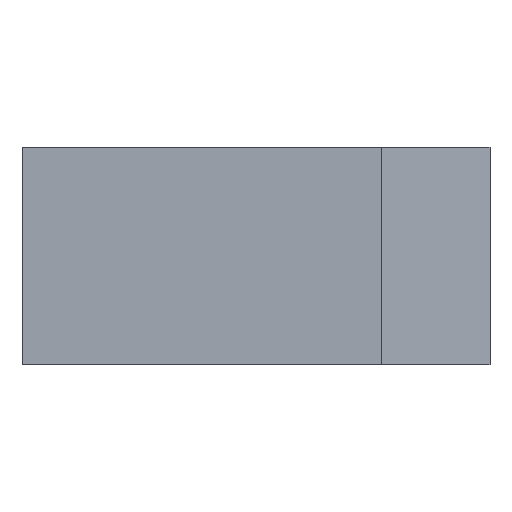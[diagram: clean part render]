
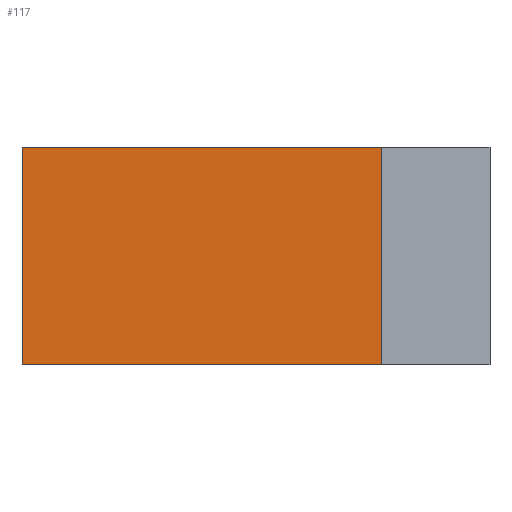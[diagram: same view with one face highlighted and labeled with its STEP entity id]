
A CAD part, left-side view. The second image highlights one B-rep face of the part: STEP entity #117.
In plain terms, the highlighted planar face has unit normal (-1, 0, 0).
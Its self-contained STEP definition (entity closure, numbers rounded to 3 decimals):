
#39 = VERTEX_POINT ( 'NONE', #378 ) ;
#40 = ORIENTED_EDGE ( 'NONE', *, *, #41, .F. ) ;
#41 = EDGE_CURVE ( 'NONE', #161, #39, #377, .T. ) ;
#42 = ORIENTED_EDGE ( 'NONE', *, *, #160, .T. ) ;
#117 = ADVANCED_FACE ( 'NONE', ( #275 ), #274, .F. ) ;
#118 = EDGE_LOOP ( 'NONE', ( #119, #122, #40, #42 ) ) ;
#119 = ORIENTED_EDGE ( 'NONE', *, *, #120, .T. ) ;
#120 = EDGE_CURVE ( 'NONE', #158, #121, #269, .T. ) ;
#121 = VERTEX_POINT ( 'NONE', #457 ) ;
#122 = ORIENTED_EDGE ( 'NONE', *, *, #123, .T. ) ;
#123 = EDGE_CURVE ( 'NONE', #121, #39, #419, .T. ) ;
#158 = VERTEX_POINT ( 'NONE', #533 ) ;
#160 = EDGE_CURVE ( 'NONE', #161, #158, #532, .T. ) ;
#161 = VERTEX_POINT ( 'NONE', #528 ) ;
#266 = DIRECTION ( 'NONE',  ( 0., -1., 0. ) ) ;
#267 = VECTOR ( 'NONE', #266, 1000. ) ;
#268 = CARTESIAN_POINT ( 'NONE',  ( -75., -21., 0. ) ) ;
#269 = LINE ( 'NONE', #268, #267 ) ;
#270 = DIRECTION ( 'NONE',  ( 0., 0., -1. ) ) ;
#271 = DIRECTION ( 'NONE',  ( 1., 0., 0. ) ) ;
#272 = CARTESIAN_POINT ( 'NONE',  ( -75., -21., 20. ) ) ;
#273 = AXIS2_PLACEMENT_3D ( 'NONE', #272, #271, #270 ) ;
#274 = PLANE ( 'NONE',  #273 ) ;
#275 = FACE_OUTER_BOUND ( 'NONE', #118, .T. ) ;
#347 = DIRECTION ( 'NONE',  ( 0., -1., 0. ) ) ;
#348 = VECTOR ( 'NONE', #347, 1000. ) ;
#376 = CARTESIAN_POINT ( 'NONE',  ( -75., -21., 20. ) ) ;
#377 = LINE ( 'NONE', #376, #348 ) ;
#378 = CARTESIAN_POINT ( 'NONE',  ( -75., -11., 20. ) ) ;
#416 = DIRECTION ( 'NONE',  ( 0., 0., 1. ) ) ;
#417 = VECTOR ( 'NONE', #416, 1000. ) ;
#418 = CARTESIAN_POINT ( 'NONE',  ( -75., -11., 20. ) ) ;
#419 = LINE ( 'NONE', #418, #417 ) ;
#457 = CARTESIAN_POINT ( 'NONE',  ( -75., -11., 0. ) ) ;
#528 = CARTESIAN_POINT ( 'NONE',  ( -75., 22., 20. ) ) ;
#529 = DIRECTION ( 'NONE',  ( 0., 0., -1. ) ) ;
#530 = VECTOR ( 'NONE', #529, 1000. ) ;
#531 = CARTESIAN_POINT ( 'NONE',  ( -75., 22., 20. ) ) ;
#532 = LINE ( 'NONE', #531, #530 ) ;
#533 = CARTESIAN_POINT ( 'NONE',  ( -75., 22., 0. ) ) ;
